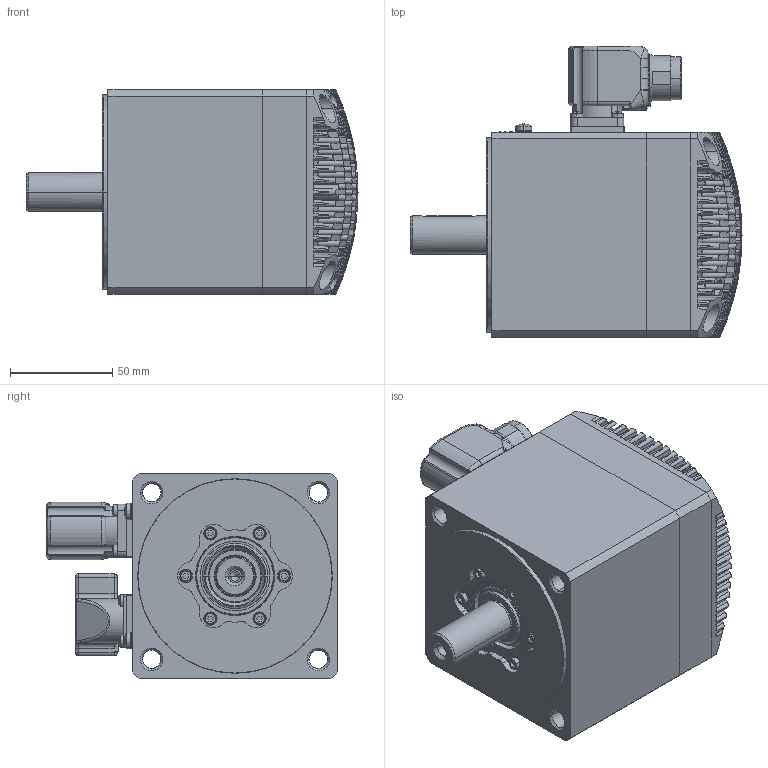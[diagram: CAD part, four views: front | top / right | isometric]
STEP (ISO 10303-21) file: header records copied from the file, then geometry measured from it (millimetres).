
FILE_DESCRIPTION((''),'2;1');
FILE_NAME('53344N-0_SW0002','2015-10-19T',('hegenwang'),(''),'PRO/ENGINEER BY PARAMETRIC TECHNOLOGY CORPORATION, 2010430','PRO/ENGINEER BY PARAMETRIC TECHNOLOGY CORPORATION, 2010430','');
FILE_SCHEMA(('AUTOMOTIVE_DESIGN_CC2 { 1 2 10303 214 -1 1 5 2 }'));
Products named in the file (1): 53344N-0_SW0002
Bounding box: 162 x 142.01 x 100.02 mm (x, y, z)
Surface area: 146582.9 mm2 (no closed solid volume)
Topology: 0 solids, 78 shells, 1639 faces, 4320 edges, 2873 vertices
Faces by surface type: plane 687, cone 379, cylinder 306, sphere 221, bspline 23, torus 23
Entity records: 84606 total; most frequent: CARTESIAN_POINT 21265, DIRECTION 8370, ORIENTED_EDGE 8156, PRESENTATION_STYLE_ASSIGNMENT 5738, STYLED_ITEM 4346, CURVE_STYLE 4306, EDGE_CURVE 4306, AXIS2_PLACEMENT_3D 3260
